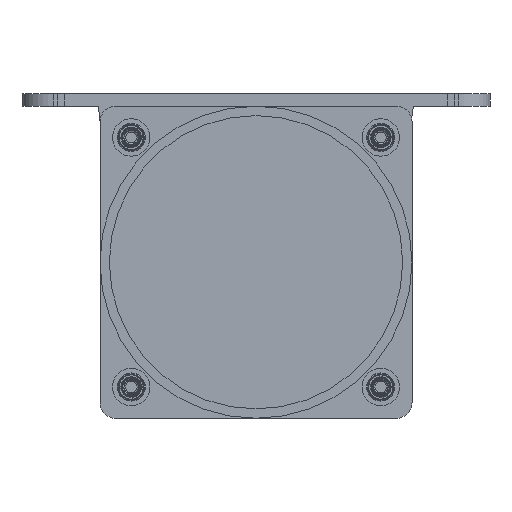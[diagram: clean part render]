
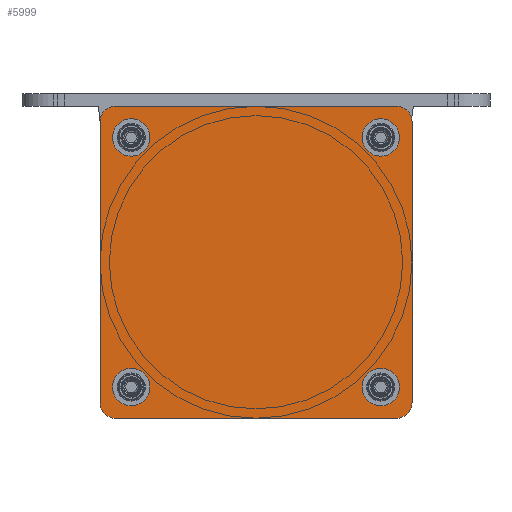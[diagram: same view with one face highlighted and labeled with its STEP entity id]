
A CAD part, front view. The second image highlights one B-rep face of the part: STEP entity #5999.
In plain terms, the highlighted planar face has unit normal (0, -1, 0).
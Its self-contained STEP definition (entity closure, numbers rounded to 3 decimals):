
#2137=CARTESIAN_POINT('',(-45.,-995.5,-45.));
#2138=DIRECTION('',(0.,-1.,0.));
#2139=DIRECTION('',(-1.,0.,0.));
#2140=AXIS2_PLACEMENT_3D('',#2137,#2138,#2139);
#2142=DIRECTION('',(0.,0.,-1.));
#2143=VECTOR('',#2142,90.);
#2144=CARTESIAN_POINT('',(-50.,-995.5,45.));
#2145=LINE('',#2144,#2143);
#2146=CARTESIAN_POINT('',(-45.,-995.5,45.));
#2147=DIRECTION('',(0.,-1.,0.));
#2148=DIRECTION('',(0.,0.,1.));
#2149=AXIS2_PLACEMENT_3D('',#2146,#2147,#2148);
#2151=DIRECTION('',(-1.,0.,0.));
#2152=VECTOR('',#2151,90.);
#2153=CARTESIAN_POINT('',(45.,-995.5,50.));
#2154=LINE('',#2153,#2152);
#2155=CARTESIAN_POINT('',(45.,-995.5,45.));
#2156=DIRECTION('',(0.,-1.,0.));
#2157=DIRECTION('',(1.,0.,0.));
#2158=AXIS2_PLACEMENT_3D('',#2155,#2156,#2157);
#2160=DIRECTION('',(0.,0.,1.));
#2161=VECTOR('',#2160,90.);
#2162=CARTESIAN_POINT('',(50.,-995.5,-45.));
#2163=LINE('',#2162,#2161);
#2164=CARTESIAN_POINT('',(45.,-995.5,-45.));
#2165=DIRECTION('',(0.,-1.,0.));
#2166=DIRECTION('',(0.,0.,-1.));
#2167=AXIS2_PLACEMENT_3D('',#2164,#2165,#2166);
#2169=DIRECTION('',(1.,0.,0.));
#2170=VECTOR('',#2169,90.);
#2171=CARTESIAN_POINT('',(-45.,-995.5,-50.));
#2172=LINE('',#2171,#2170);
#2173=CARTESIAN_POINT('',(-40.,-995.5,-40.));
#2174=DIRECTION('',(0.,-1.,0.));
#2175=DIRECTION('',(0.,0.,1.));
#2176=AXIS2_PLACEMENT_3D('',#2173,#2174,#2175);
#2178=CARTESIAN_POINT('',(-40.,-995.5,-40.));
#2179=DIRECTION('',(0.,-1.,0.));
#2180=DIRECTION('',(0.,0.,-1.));
#2181=AXIS2_PLACEMENT_3D('',#2178,#2179,#2180);
#2183=CARTESIAN_POINT('',(-40.,-995.5,40.));
#2184=DIRECTION('',(0.,-1.,0.));
#2185=DIRECTION('',(0.,0.,1.));
#2186=AXIS2_PLACEMENT_3D('',#2183,#2184,#2185);
#2188=CARTESIAN_POINT('',(-40.,-995.5,40.));
#2189=DIRECTION('',(0.,-1.,0.));
#2190=DIRECTION('',(0.,0.,-1.));
#2191=AXIS2_PLACEMENT_3D('',#2188,#2189,#2190);
#2193=CARTESIAN_POINT('',(40.,-995.5,-40.));
#2194=DIRECTION('',(0.,-1.,0.));
#2195=DIRECTION('',(0.,0.,1.));
#2196=AXIS2_PLACEMENT_3D('',#2193,#2194,#2195);
#2198=CARTESIAN_POINT('',(40.,-995.5,-40.));
#2199=DIRECTION('',(0.,-1.,0.));
#2200=DIRECTION('',(0.,0.,-1.));
#2201=AXIS2_PLACEMENT_3D('',#2198,#2199,#2200);
#2203=CARTESIAN_POINT('',(40.,-995.5,40.));
#2204=DIRECTION('',(0.,-1.,0.));
#2205=DIRECTION('',(0.,0.,1.));
#2206=AXIS2_PLACEMENT_3D('',#2203,#2204,#2205);
#2208=CARTESIAN_POINT('',(40.,-995.5,40.));
#2209=DIRECTION('',(0.,-1.,0.));
#2210=DIRECTION('',(0.,0.,-1.));
#2211=AXIS2_PLACEMENT_3D('',#2208,#2209,#2210);
#2521=CARTESIAN_POINT('',(-50.,-995.5,-45.));
#2522=CARTESIAN_POINT('',(-45.,-995.5,-50.));
#2523=VERTEX_POINT('',#2521);
#2524=VERTEX_POINT('',#2522);
#2525=CARTESIAN_POINT('',(45.,-995.5,-50.));
#2526=VERTEX_POINT('',#2525);
#2527=CARTESIAN_POINT('',(50.,-995.5,-45.));
#2528=VERTEX_POINT('',#2527);
#2529=CARTESIAN_POINT('',(50.,-995.5,45.));
#2530=VERTEX_POINT('',#2529);
#2531=CARTESIAN_POINT('',(45.,-995.5,50.));
#2532=VERTEX_POINT('',#2531);
#2533=CARTESIAN_POINT('',(-45.,-995.5,50.));
#2534=VERTEX_POINT('',#2533);
#2535=CARTESIAN_POINT('',(-50.,-995.5,45.));
#2536=VERTEX_POINT('',#2535);
#2549=CARTESIAN_POINT('',(-40.,-995.5,-36.75));
#2550=CARTESIAN_POINT('',(-40.,-995.5,-43.25));
#2551=VERTEX_POINT('',#2549);
#2552=VERTEX_POINT('',#2550);
#2553=CARTESIAN_POINT('',(-40.,-995.5,43.25));
#2554=CARTESIAN_POINT('',(-40.,-995.5,36.75));
#2555=VERTEX_POINT('',#2553);
#2556=VERTEX_POINT('',#2554);
#2557=CARTESIAN_POINT('',(40.,-995.5,-36.75));
#2558=CARTESIAN_POINT('',(40.,-995.5,-43.25));
#2559=VERTEX_POINT('',#2557);
#2560=VERTEX_POINT('',#2558);
#2561=CARTESIAN_POINT('',(40.,-995.5,43.25));
#2562=CARTESIAN_POINT('',(40.,-995.5,36.75));
#2563=VERTEX_POINT('',#2561);
#2564=VERTEX_POINT('',#2562);
#5954=CARTESIAN_POINT('',(0.,-995.5,0.));
#5955=DIRECTION('',(0.,-1.,0.));
#5956=DIRECTION('',(0.,0.,1.));
#5957=AXIS2_PLACEMENT_3D('',#5954,#5955,#5956);
#5958=PLANE('',#5957);
#5960=ORIENTED_EDGE('',*,*,#5959,.F.);
#5962=ORIENTED_EDGE('',*,*,#5961,.F.);
#5964=ORIENTED_EDGE('',*,*,#5963,.F.);
#5966=ORIENTED_EDGE('',*,*,#5965,.F.);
#5968=ORIENTED_EDGE('',*,*,#5967,.F.);
#5970=ORIENTED_EDGE('',*,*,#5969,.F.);
#5972=ORIENTED_EDGE('',*,*,#5971,.F.);
#5974=ORIENTED_EDGE('',*,*,#5973,.F.);
#5975=EDGE_LOOP('',(#5960,#5962,#5964,#5966,#5968,#5970,#5972,#5974));
#5976=FACE_OUTER_BOUND('',#5975,.F.);
#5977=ORIENTED_EDGE('',*,*,#5934,.T.);
#5978=ORIENTED_EDGE('',*,*,#5948,.T.);
#5979=EDGE_LOOP('',(#5977,#5978));
#5980=FACE_BOUND('',#5979,.F.);
#5982=ORIENTED_EDGE('',*,*,#5981,.T.);
#5984=ORIENTED_EDGE('',*,*,#5983,.T.);
#5985=EDGE_LOOP('',(#5982,#5984));
#5986=FACE_BOUND('',#5985,.F.);
#5988=ORIENTED_EDGE('',*,*,#5987,.T.);
#5990=ORIENTED_EDGE('',*,*,#5989,.T.);
#5991=EDGE_LOOP('',(#5988,#5990));
#5992=FACE_BOUND('',#5991,.F.);
#5994=ORIENTED_EDGE('',*,*,#5993,.T.);
#5996=ORIENTED_EDGE('',*,*,#5995,.T.);
#5997=EDGE_LOOP('',(#5994,#5996));
#5998=FACE_BOUND('',#5997,.F.);
#5999=ADVANCED_FACE('',(#5976,#5980,#5986,#5992,#5998),#5958,.T.);
#2141=CIRCLE('',#2140,5.);
#2150=CIRCLE('',#2149,5.);
#2159=CIRCLE('',#2158,5.);
#2168=CIRCLE('',#2167,5.);
#2177=CIRCLE('',#2176,3.25);
#2182=CIRCLE('',#2181,3.25);
#2187=CIRCLE('',#2186,3.25);
#2192=CIRCLE('',#2191,3.25);
#2197=CIRCLE('',#2196,3.25);
#2202=CIRCLE('',#2201,3.25);
#2207=CIRCLE('',#2206,3.25);
#2212=CIRCLE('',#2211,3.25);
#5934=EDGE_CURVE('',#2551,#2552,#2177,.T.);
#5948=EDGE_CURVE('',#2552,#2551,#2182,.T.);
#5959=EDGE_CURVE('',#2523,#2524,#2141,.T.);
#5961=EDGE_CURVE('',#2536,#2523,#2145,.T.);
#5963=EDGE_CURVE('',#2534,#2536,#2150,.T.);
#5965=EDGE_CURVE('',#2532,#2534,#2154,.T.);
#5967=EDGE_CURVE('',#2530,#2532,#2159,.T.);
#5969=EDGE_CURVE('',#2528,#2530,#2163,.T.);
#5971=EDGE_CURVE('',#2526,#2528,#2168,.T.);
#5973=EDGE_CURVE('',#2524,#2526,#2172,.T.);
#5981=EDGE_CURVE('',#2555,#2556,#2187,.T.);
#5983=EDGE_CURVE('',#2556,#2555,#2192,.T.);
#5987=EDGE_CURVE('',#2559,#2560,#2197,.T.);
#5989=EDGE_CURVE('',#2560,#2559,#2202,.T.);
#5993=EDGE_CURVE('',#2563,#2564,#2207,.T.);
#5995=EDGE_CURVE('',#2564,#2563,#2212,.T.);
